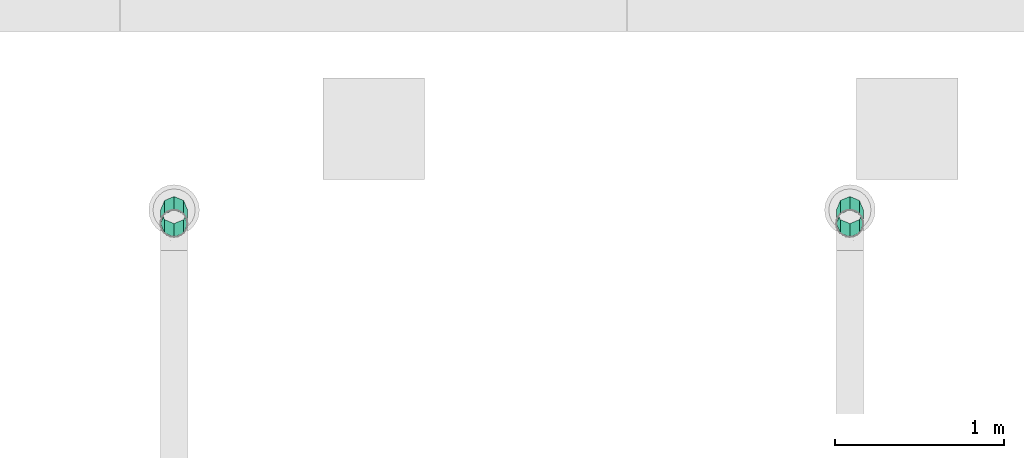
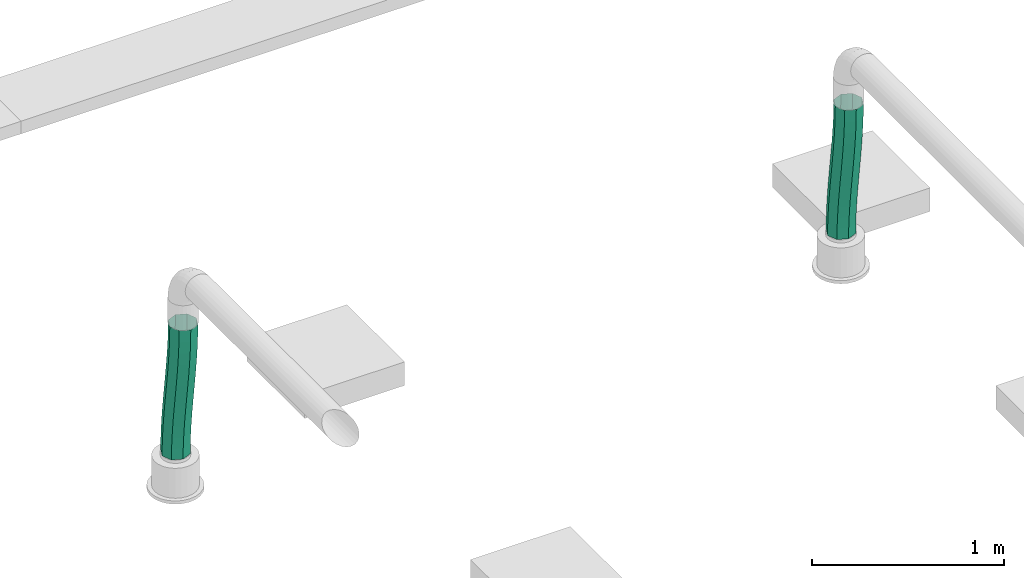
# One storey, part 241 of 374: 2 flow segments.
"""IFC2X3 building model written with IfcOpenShell, lengths in metres."""

from ifc_helpers import new_model, si_unit, direction, origin, place, context, subcontext, project, spatial, open_shell, surface_model, source, transform, mapped, element, save


model = new_model("IFC2X3")

# Units and contexts
model_context = context("Model", 3, precision=1e-05, world=origin(), true_north=direction((-0.4480736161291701, 0.8939966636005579)))
body_context = subcontext(model_context, "Body", "Model", "MODEL_VIEW")
ifc_project = project(units=[si_unit("LENGTHUNIT", "METRE"), si_unit("AREAUNIT", "SQUARE_METRE"), si_unit("VOLUMEUNIT", "CUBIC_METRE"), si_unit("PLANEANGLEUNIT", "RADIAN"), si_unit("THERMODYNAMICTEMPERATUREUNIT", "KELVIN"), si_unit("MASSUNIT", "GRAM", prefix="KILO"), si_unit("TIMEUNIT", "SECOND")], contexts=[model_context])

# Site, building, storey
site_placement = place(None, origin())
site = spatial("IfcSite", under=ifc_project, at=site_placement, Name="Site 1", CompositionType="ELEMENT")
building_placement = place(site_placement, origin())
building = spatial("IfcBuilding", under=site, at=building_placement, Name="Undefined", CompositionType="ELEMENT")
storey_placement = place(building_placement, origin())
storey = spatial("IfcBuildingStorey", under=building, at=storey_placement, Name="Rez de chauss\x8ee", CompositionType="ELEMENT", Elevation=0.0)

# Flow segments
shared_shape_1 = source(origin(), body_context, "Body", "SurfaceModel", [
    surface_model("IfcFaceBasedSurfaceModel", [(0.09425707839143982, 0.0, -1.776356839e-15), (0.05356602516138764, 0.045752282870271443, 0.0), (0.0, 0.0, 0.0), (0.038940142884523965, -0.0472514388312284, -1.150793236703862e-06), (-0.05541274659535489, -0.044041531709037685, 0.001035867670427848), (-0.017993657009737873, -0.09250640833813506, 0.0010617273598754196), (-0.11243304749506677, -0.08679100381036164, 0.0029113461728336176), (-0.07622094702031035, -0.13616420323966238, 0.002975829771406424), (-0.1707571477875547, -0.12862219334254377, 0.005426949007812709), (-0.1354183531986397, -0.17862411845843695, 0.00552835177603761), (-0.23007333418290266, -0.16991459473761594, 0.008379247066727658), (-0.19526250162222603, -0.22028544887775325, 0.008506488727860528), (-0.2900642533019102, -0.21105507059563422, 0.011560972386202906), (-0.25543001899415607, -0.26154748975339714, 0.01169743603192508), (-0.35040837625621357, -0.25243868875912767, 0.014761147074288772), (-0.3155975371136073, -0.30280953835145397, 0.014888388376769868), (-0.41078048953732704, -0.2944689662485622, 0.01776513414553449), (-0.3754416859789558, -0.3444708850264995, 0.017866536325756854), (-0.4708512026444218, -0.3375576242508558, 0.02035458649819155), (-0.4346390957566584, -0.38693081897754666, 0.02041906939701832), (-0.5302854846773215, -0.38212375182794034, 0.022307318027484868), (-0.4928663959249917, -0.4305886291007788, 0.022333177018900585), (-0.5887403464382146, -0.42859215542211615, 0.02339719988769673), (-0.5498002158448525, -0.47584360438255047, 0.023396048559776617), (-0.645808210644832, -0.47734272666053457, 0.02339487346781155), (-0.6051171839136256, -0.5230950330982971, 0.023394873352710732), (0.025061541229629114, 0.07834277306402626, -0.04329419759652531), (-0.027779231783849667, 0.03321146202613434, -0.04329372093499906), (-0.08256193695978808, -0.010327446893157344, -0.04226904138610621), (-0.1390822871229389, -0.052700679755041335, -0.04040956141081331), (-0.19704465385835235, -0.09427144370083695, -0.037909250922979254), (-0.2561421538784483, -0.1354110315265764, -0.03496765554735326), (-0.3160599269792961, -0.17650115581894, -0.03178974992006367), (-0.37647720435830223, -0.21793513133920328, -0.028585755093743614), (-0.4370680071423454, -0.2601182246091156, -0.025571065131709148), (-0.4975004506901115, -0.3034673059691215, -0.022966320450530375), (-0.5574346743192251, -0.348409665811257, -0.02099759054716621), (-0.616519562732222, -0.3953806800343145, -0.019896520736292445), (-0.6743126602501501, -0.44475220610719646, -0.019899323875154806), (0.025441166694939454, 0.07868040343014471, -0.10452143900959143), (-0.028124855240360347, 0.03292812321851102, -0.10452143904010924), (-0.08353760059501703, -0.011113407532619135, -0.10348557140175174), (-0.14055790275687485, -0.053862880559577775, -0.10161009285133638), (-0.19888200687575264, -0.09569407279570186, -0.09909448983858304), (-0.2581981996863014, -0.13698647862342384, -0.09614219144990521), (-0.31818912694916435, -0.17812696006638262, -0.09296046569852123), (-0.378533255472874, -0.2195105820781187, -0.08976029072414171), (-0.43890536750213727, -0.26154085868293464, -0.08675630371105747), (-0.4989760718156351, -0.3046295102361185, -0.08416685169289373), (-0.5584103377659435, -0.34919562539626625, -0.08221412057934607), (-0.6168651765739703, -0.3956640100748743, -0.08112423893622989), (-0.6739330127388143, -0.4444145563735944, -0.08112656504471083), (0.05448252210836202, 0.046567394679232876, -0.14781563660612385), (-0.0008344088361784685, -0.0006840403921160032, -0.1478167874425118), (-0.05776820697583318, -0.04593900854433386, -0.1467539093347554), (-0.1159954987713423, -0.08959680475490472, -0.1448398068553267), (-0.1751929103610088, -0.13205672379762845, -0.14228728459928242), (-0.23503706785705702, -0.1737180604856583, -0.13930914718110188), (-0.29520459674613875, -0.21498010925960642, -0.13611819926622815), (-0.35537212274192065, -0.2562421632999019, -0.13292724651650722), (-0.4152162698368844, -0.29790350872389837, -0.12994909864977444), (-0.47441366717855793, -0.3403634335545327, -0.12739656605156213), (-0.5326409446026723, -0.38402122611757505, -0.12548245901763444), (-0.5895747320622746, -0.4292761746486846, -0.12441958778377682), (-0.6448916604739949, -0.4765275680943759, -0.12442076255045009), (0.0951735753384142, 0.0008151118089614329, -0.14781563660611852), (0.03810573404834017, -0.04793547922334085, -0.14781793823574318), (-0.020349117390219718, -0.09440388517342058, -0.14672804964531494), (-0.07978339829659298, -0.1389700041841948, -0.14477532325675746), (-0.13985411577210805, -0.18205864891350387, -0.14218588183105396), (-0.20022623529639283, -0.2240889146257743, -0.139181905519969), (-0.26057036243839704, -0.26547252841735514, -0.13598173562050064), (-0.32056128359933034, -0.306613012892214, -0.13280000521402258), (-0.37987746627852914, -0.3479054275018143, -0.12984769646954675), (-0.4382015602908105, -0.38973662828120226, -0.1273320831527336), (-0.49522185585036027, -0.43248610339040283, -0.12545660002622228), (-0.5506346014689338, -0.47652762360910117, -0.12442073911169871), (-0.604200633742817, -0.5222798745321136, -0.12442076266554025), (0.12367805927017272, -0.031775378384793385, -0.10452143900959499), (0.06588496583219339, -0.0811469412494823, -0.10452421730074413), (0.006800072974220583, -0.12811796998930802, -0.10342314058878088), (-0.053134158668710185, -0.17306032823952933, -0.10145441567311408), (-0.11356660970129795, -0.21640939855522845, -0.09884968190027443), (-0.1741574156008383, -0.2585924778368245, -0.09583500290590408), (-0.23457468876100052, -0.30002644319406, -0.09263101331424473), (-0.2944924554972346, -0.3411165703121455, -0.08945310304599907), (-0.353589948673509, -0.3822561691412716, -0.08651149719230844), (-0.4115523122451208, -0.42382694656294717, -0.08401117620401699), (-0.468072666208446, -0.4662001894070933, -0.08215169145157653), (-0.5228553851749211, -0.5097390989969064, -0.08112701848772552), (-0.5756961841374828, -0.5548703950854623, -0.08112656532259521), (0.12329843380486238, -0.032113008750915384, -0.043294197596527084), (0.06623058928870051, -0.08086360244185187, -0.043296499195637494), (0.0077757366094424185, -0.12733200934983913, -0.042206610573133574), (-0.05165854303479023, -0.17189812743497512, -0.04025388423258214), (-0.11172925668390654, -0.21498676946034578, -0.037664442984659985), (-0.1721013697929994, -0.2570170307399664, -0.03466046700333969), (-0.23244548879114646, -0.2984006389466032, -0.03146029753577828), (-0.2924364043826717, -0.3395411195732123, -0.028278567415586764), (-0.3517525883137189, -0.38083353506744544, -0.025326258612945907), (-0.41007669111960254, -0.422664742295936, -0.022810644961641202), (-0.4670970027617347, -0.46541422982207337, -0.020935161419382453), (-0.5225097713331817, -0.509455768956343, -0.01989930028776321), (-0.5760758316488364, -0.5552080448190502, -0.019899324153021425)], [open_shell([[[0, 1, 2]], [[2, 3, 0]], [[3, 2, 4]], [[4, 5, 3]], [[5, 4, 6]], [[6, 7, 5]], [[7, 6, 8]], [[8, 9, 7]], [[9, 8, 10]], [[10, 11, 9]], [[11, 10, 12]], [[12, 13, 11]], [[13, 12, 14]], [[14, 15, 13]], [[15, 14, 16]], [[16, 17, 15]], [[17, 16, 18]], [[18, 19, 17]], [[19, 18, 20]], [[20, 21, 19]], [[21, 20, 22]], [[22, 23, 21]], [[23, 22, 24]], [[24, 25, 23]], [[1, 26, 27]], [[27, 2, 1]], [[2, 27, 28]], [[28, 4, 2]], [[4, 28, 29]], [[29, 6, 4]], [[6, 29, 30]], [[30, 8, 6]], [[8, 30, 31]], [[31, 10, 8]], [[10, 31, 32]], [[32, 12, 10]], [[12, 32, 33]], [[33, 14, 12]], [[14, 33, 34]], [[34, 16, 14]], [[16, 34, 35]], [[35, 18, 16]], [[18, 35, 36]], [[36, 20, 18]], [[20, 36, 37]], [[37, 22, 20]], [[22, 37, 38]], [[38, 24, 22]], [[26, 39, 40]], [[40, 27, 26]], [[27, 40, 41]], [[41, 28, 27]], [[28, 41, 42]], [[42, 29, 28]], [[29, 42, 43]], [[43, 30, 29]], [[30, 43, 44]], [[44, 31, 30]], [[31, 44, 45]], [[45, 32, 31]], [[32, 45, 46]], [[46, 33, 32]], [[33, 46, 47]], [[47, 34, 33]], [[34, 47, 48]], [[48, 35, 34]], [[35, 48, 49]], [[49, 36, 35]], [[36, 49, 50]], [[50, 37, 36]], [[37, 50, 51]], [[51, 38, 37]], [[39, 52, 53]], [[53, 40, 39]], [[40, 53, 54]], [[54, 41, 40]], [[41, 54, 55]], [[55, 42, 41]], [[42, 55, 56]], [[56, 43, 42]], [[43, 56, 57]], [[57, 44, 43]], [[44, 57, 58]], [[58, 45, 44]], [[45, 58, 59]], [[59, 46, 45]], [[46, 59, 60]], [[60, 47, 46]], [[47, 60, 61]], [[61, 48, 47]], [[48, 61, 62]], [[62, 49, 48]], [[49, 62, 63]], [[63, 50, 49]], [[50, 63, 64]], [[64, 51, 50]], [[52, 65, 66]], [[66, 53, 52]], [[53, 66, 67]], [[67, 54, 53]], [[54, 67, 68]], [[68, 55, 54]], [[55, 68, 69]], [[69, 56, 55]], [[56, 69, 70]], [[70, 57, 56]], [[57, 70, 71]], [[71, 58, 57]], [[58, 71, 72]], [[72, 59, 58]], [[59, 72, 73]], [[73, 60, 59]], [[60, 73, 74]], [[74, 61, 60]], [[61, 74, 75]], [[75, 62, 61]], [[62, 75, 76]], [[76, 63, 62]], [[63, 76, 77]], [[77, 64, 63]], [[65, 78, 79]], [[79, 66, 65]], [[66, 79, 80]], [[80, 67, 66]], [[67, 80, 81]], [[81, 68, 67]], [[68, 81, 82]], [[82, 69, 68]], [[69, 82, 83]], [[83, 70, 69]], [[70, 83, 84]], [[84, 71, 70]], [[71, 84, 85]], [[85, 72, 71]], [[72, 85, 86]], [[86, 73, 72]], [[73, 86, 87]], [[87, 74, 73]], [[74, 87, 88]], [[88, 75, 74]], [[75, 88, 89]], [[89, 76, 75]], [[76, 89, 90]], [[90, 77, 76]], [[78, 91, 92]], [[92, 79, 78]], [[79, 92, 93]], [[93, 80, 79]], [[80, 93, 94]], [[94, 81, 80]], [[81, 94, 95]], [[95, 82, 81]], [[82, 95, 96]], [[96, 83, 82]], [[83, 96, 97]], [[97, 84, 83]], [[84, 97, 98]], [[98, 85, 84]], [[85, 98, 99]], [[99, 86, 85]], [[86, 99, 100]], [[100, 87, 86]], [[87, 100, 101]], [[101, 88, 87]], [[88, 101, 102]], [[102, 89, 88]], [[89, 102, 103]], [[103, 90, 89]], [[91, 0, 3]], [[3, 92, 91]], [[92, 3, 5]], [[5, 93, 92]], [[93, 5, 7]], [[7, 94, 93]], [[94, 7, 9]], [[9, 95, 94]], [[95, 9, 11]], [[11, 96, 95]], [[96, 11, 13]], [[13, 97, 96]], [[97, 13, 15]], [[15, 98, 97]], [[98, 15, 17]], [[17, 99, 98]], [[99, 17, 19]], [[19, 100, 99]], [[100, 19, 21]], [[21, 101, 100]], [[101, 21, 23]], [[23, 102, 101]], [[102, 23, 25]], [[25, 103, 102]]])]),
])
flow_segment_1_placement = place(storey_placement, origin())
element("IfcFlowSegment", 1, at=flow_segment_1_placement, inside=storey, Name="Tube flexible", ObjectType="Tube flexible", context=body_context, shape_type="MappedRepresentation", body=[
    mapped(shared_shape_1, transform((22.923485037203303, 16.933392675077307, 3.4095708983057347), x_axis=(-0.2485909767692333, -0.6163532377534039, 0.7472022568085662), y_axis=(0.29104621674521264, 0.6882384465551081, 0.6645449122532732), z_axis=(-0.9238477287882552, 0.3826702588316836, 0.00829741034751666))),
])
shared_shape_2 = source(origin(), body_context, "Body", "SurfaceModel", [
    surface_model("IfcFaceBasedSurfaceModel", [(0.09425707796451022, 0.0, -1.776356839e-15), (0.053566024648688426, 0.045752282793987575, 0.0), (0.0, 0.0, 0.0), (0.03894014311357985, -0.04725143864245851, -1.1508051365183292e-06), (-0.05541274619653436, -0.044041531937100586, 0.0010358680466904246), (-0.017993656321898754, -0.0925064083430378, 0.0010617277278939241), (-0.11243304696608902, -0.08679100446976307, 0.002911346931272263), (-0.07622094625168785, -0.13616420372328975, 0.002975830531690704), (-0.17075714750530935, -0.1286221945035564, 0.005426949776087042), (-0.13541835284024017, -0.17862411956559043, 0.005528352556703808), (-0.23007333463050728, -0.16991459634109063, 0.00837924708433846), (-0.1952625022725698, -0.22028545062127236, 0.008506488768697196), (-0.2900642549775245, -0.21105507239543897, 0.011560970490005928), (-0.2554300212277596, -0.26154749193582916, 0.011697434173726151), (-0.35040837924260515, -0.2524386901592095, 0.014761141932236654), (-0.315597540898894, -0.30280954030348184, 0.014888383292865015), (-0.4107804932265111, -0.2944689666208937, 0.017765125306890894), (-0.375441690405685, -0.34447088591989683, 0.01786652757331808), (-0.4708512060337, -0.33755762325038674, 0.020354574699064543), (-0.4346390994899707, -0.3869308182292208, 0.020419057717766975), (-0.5302854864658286, -0.38212374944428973, 0.022307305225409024), (-0.49286639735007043, -0.430588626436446, 0.02233316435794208), (-0.5887403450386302, -0.4285921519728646, 0.023397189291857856), (-0.5498002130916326, -0.4758435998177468, 0.02339603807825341), (-0.6458082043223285, -0.47734272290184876, 0.023394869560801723), (-0.6051171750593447, -0.5230950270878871, 0.023394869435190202), (0.025061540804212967, 0.07834277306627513, -0.04329419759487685), (-0.027779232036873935, 0.033211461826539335, -0.04329372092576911), (-0.08256193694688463, -0.010327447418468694, -0.04226904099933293), (-0.13908228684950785, -0.05270068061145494, -0.04040956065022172), (-0.1970446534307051, -0.09427144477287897, -0.037909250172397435), (-0.2561421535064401, -0.13541103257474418, -0.034967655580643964), (-0.31605992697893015, -0.17650115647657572, -0.0317897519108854), (-0.37647720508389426, -0.21793513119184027, -0.02858576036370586), (-0.43706800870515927, -0.2601182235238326, -0.025571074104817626), (-0.49750045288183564, -0.303467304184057, -0.0229663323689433), (-0.5574346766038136, -0.3484096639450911, -0.020997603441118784), (-0.6165195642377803, -0.39538067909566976, -0.019896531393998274), (-0.6743126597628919, -0.44475220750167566, -0.01989932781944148), (0.025441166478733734, 0.07868040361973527, -0.10452143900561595), (-0.028124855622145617, 0.03292812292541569, -0.10452143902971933), (-0.08353760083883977, -0.011113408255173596, -0.10348557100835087), (-0.14055790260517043, -0.05386288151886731, -0.1016100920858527), (-0.19888200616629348, -0.0956940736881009, -0.09909448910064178), (-0.2581981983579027, -0.13698647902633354, -0.09614219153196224), (-0.3181891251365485, -0.17812695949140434, -0.09296046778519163), (-0.37853325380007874, -0.21951058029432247, -0.08976029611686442), (-0.43890536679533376, -0.2615408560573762, -0.08675631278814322), (-0.49897607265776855, -0.3046295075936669, -0.0841668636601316), (-0.5584103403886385, -0.34919562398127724, -0.08221413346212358), (-0.6168651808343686, -0.3956640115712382, -0.08112424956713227), (-0.673933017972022, -0.44441456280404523, -0.08112656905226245), (0.054482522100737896, 0.04656739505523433, -0.14781563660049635), (-0.000834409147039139, -0.0006840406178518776, -0.1478167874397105), (-0.05776820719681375, -0.045939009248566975, -0.1467539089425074), (-0.11599549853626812, -0.08959680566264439, -0.14483980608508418), (-0.1751929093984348, -0.13205672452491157, -0.14228728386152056), (-0.23503706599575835, -0.17371806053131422, -0.1393091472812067), (-0.29520459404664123, -0.21498010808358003, -0.1361182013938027), (-0.35537211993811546, -0.25624216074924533, -0.13292725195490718), (-0.4152162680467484, -0.29790350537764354, -0.12994910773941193), (-0.4744136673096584, -0.34036343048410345, -0.12739657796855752), (-0.5326409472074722, -0.3840212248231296, -0.12548247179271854), (-0.5895747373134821, -0.4292761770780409, -0.12441959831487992), (-0.6448916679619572, -0.4765275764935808, -0.1244207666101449), (0.09517357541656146, 0.0008151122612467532, -0.1478156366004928), (0.038105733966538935, -0.04793547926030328, -0.14781793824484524), (-0.020349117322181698, -0.0944038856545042, -0.1467280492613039), (-0.07978339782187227, -0.1389700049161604, -0.14477532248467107), (-0.1398541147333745, -0.18205864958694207, -0.14218588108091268), (-0.200226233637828, -0.22408891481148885, -0.13918190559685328), (-0.2605703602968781, -0.26547252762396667, -0.1359817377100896), (-0.3205612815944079, -0.3066130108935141, -0.13280001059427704), (-0.37987746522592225, -0.34790542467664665, -0.12984770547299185), (-0.43820156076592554, -0.3897366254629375, -0.1273320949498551), (-0.49522185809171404, -0.4324861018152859, -0.1254566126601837), (-0.5506346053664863, -0.4765276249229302, -0.12442074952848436), (-0.6042006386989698, -0.5222798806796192, -0.12442076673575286), (0.12367805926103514, -0.03177537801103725, -0.10452143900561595), (0.06588496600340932, -0.08114694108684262, -0.10452421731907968), (0.006800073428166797, -0.12811797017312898, -0.10342314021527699), (-0.05313415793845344, -0.17306032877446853, -0.10145441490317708), (-0.1135666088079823, -0.21640939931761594, -0.09884968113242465), (-0.17415741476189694, -0.2585924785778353, -0.09583500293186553), (-0.23457468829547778, -0.30002644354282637, -0.09263101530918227), (-0.294492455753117, -0.34111656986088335, -0.08945310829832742), (-0.3535899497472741, -0.3822561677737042, -0.08651150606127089), (-0.4115523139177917, -0.4238269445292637, -0.08401118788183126), (-0.4680726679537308, -0.466200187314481, -0.08215170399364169), (-0.5228553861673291, -0.509739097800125, -0.08112702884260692), (-0.5756961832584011, -0.5548703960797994, -0.08112656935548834), (0.12329843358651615, -0.032113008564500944, -0.04329419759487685), (0.06623058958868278, -0.08086360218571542, -0.04329649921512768), (0.00777573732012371, -0.12733200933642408, -0.042206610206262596), (-0.051658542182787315, -0.17189812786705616, -0.04025388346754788), (-0.1117292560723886, -0.214986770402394, -0.03766444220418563), (-0.17210136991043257, -0.25701703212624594, -0.034660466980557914), (-0.2324454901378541, -0.2984006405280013, -0.03146029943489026), (-0.2924364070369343, -0.33954112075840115, -0.028278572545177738), (-0.3517525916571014, -0.3808335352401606, -0.025326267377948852), (-0.4100766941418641, -0.42266474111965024, -0.022810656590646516), (-0.46709700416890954, -0.46541422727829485, -0.020935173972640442), (-0.522509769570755, -0.509455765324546, -0.019899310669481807), (-0.5760758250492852, -0.5552080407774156, -0.01989932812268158)], [open_shell([[[0, 1, 2]], [[2, 3, 0]], [[3, 2, 4]], [[4, 5, 3]], [[5, 4, 6]], [[6, 7, 5]], [[7, 6, 8]], [[8, 9, 7]], [[9, 8, 10]], [[10, 11, 9]], [[11, 10, 12]], [[12, 13, 11]], [[13, 12, 14]], [[14, 15, 13]], [[15, 14, 16]], [[16, 17, 15]], [[17, 16, 18]], [[18, 19, 17]], [[19, 18, 20]], [[20, 21, 19]], [[21, 20, 22]], [[22, 23, 21]], [[23, 22, 24]], [[24, 25, 23]], [[1, 26, 27]], [[27, 2, 1]], [[2, 27, 28]], [[28, 4, 2]], [[4, 28, 29]], [[29, 6, 4]], [[6, 29, 30]], [[30, 8, 6]], [[8, 30, 31]], [[31, 10, 8]], [[10, 31, 32]], [[32, 12, 10]], [[12, 32, 33]], [[33, 14, 12]], [[14, 33, 34]], [[34, 16, 14]], [[16, 34, 35]], [[35, 18, 16]], [[18, 35, 36]], [[36, 20, 18]], [[20, 36, 37]], [[37, 22, 20]], [[22, 37, 38]], [[38, 24, 22]], [[26, 39, 40]], [[40, 27, 26]], [[27, 40, 41]], [[41, 28, 27]], [[28, 41, 42]], [[42, 29, 28]], [[29, 42, 43]], [[43, 30, 29]], [[30, 43, 44]], [[44, 31, 30]], [[31, 44, 45]], [[45, 32, 31]], [[32, 45, 46]], [[46, 33, 32]], [[33, 46, 47]], [[47, 34, 33]], [[34, 47, 48]], [[48, 35, 34]], [[35, 48, 49]], [[49, 36, 35]], [[36, 49, 50]], [[50, 37, 36]], [[37, 50, 51]], [[51, 38, 37]], [[39, 52, 53]], [[53, 40, 39]], [[40, 53, 54]], [[54, 41, 40]], [[41, 54, 55]], [[55, 42, 41]], [[42, 55, 56]], [[56, 43, 42]], [[43, 56, 57]], [[57, 44, 43]], [[44, 57, 58]], [[58, 45, 44]], [[45, 58, 59]], [[59, 46, 45]], [[46, 59, 60]], [[60, 47, 46]], [[47, 60, 61]], [[61, 48, 47]], [[48, 61, 62]], [[62, 49, 48]], [[49, 62, 63]], [[63, 50, 49]], [[50, 63, 64]], [[64, 51, 50]], [[52, 65, 66]], [[66, 53, 52]], [[53, 66, 67]], [[67, 54, 53]], [[54, 67, 68]], [[68, 55, 54]], [[55, 68, 69]], [[69, 56, 55]], [[56, 69, 70]], [[70, 57, 56]], [[57, 70, 71]], [[71, 58, 57]], [[58, 71, 72]], [[72, 59, 58]], [[59, 72, 73]], [[73, 60, 59]], [[60, 73, 74]], [[74, 61, 60]], [[61, 74, 75]], [[75, 62, 61]], [[62, 75, 76]], [[76, 63, 62]], [[63, 76, 77]], [[77, 64, 63]], [[65, 78, 79]], [[79, 66, 65]], [[66, 79, 80]], [[80, 67, 66]], [[67, 80, 81]], [[81, 68, 67]], [[68, 81, 82]], [[82, 69, 68]], [[69, 82, 83]], [[83, 70, 69]], [[70, 83, 84]], [[84, 71, 70]], [[71, 84, 85]], [[85, 72, 71]], [[72, 85, 86]], [[86, 73, 72]], [[73, 86, 87]], [[87, 74, 73]], [[74, 87, 88]], [[88, 75, 74]], [[75, 88, 89]], [[89, 76, 75]], [[76, 89, 90]], [[90, 77, 76]], [[78, 91, 92]], [[92, 79, 78]], [[79, 92, 93]], [[93, 80, 79]], [[80, 93, 94]], [[94, 81, 80]], [[81, 94, 95]], [[95, 82, 81]], [[82, 95, 96]], [[96, 83, 82]], [[83, 96, 97]], [[97, 84, 83]], [[84, 97, 98]], [[98, 85, 84]], [[85, 98, 99]], [[99, 86, 85]], [[86, 99, 100]], [[100, 87, 86]], [[87, 100, 101]], [[101, 88, 87]], [[88, 101, 102]], [[102, 89, 88]], [[89, 102, 103]], [[103, 90, 89]], [[91, 0, 3]], [[3, 92, 91]], [[92, 3, 5]], [[5, 93, 92]], [[93, 5, 7]], [[7, 94, 93]], [[94, 7, 9]], [[9, 95, 94]], [[95, 9, 11]], [[11, 96, 95]], [[96, 11, 13]], [[13, 97, 96]], [[97, 13, 15]], [[15, 98, 97]], [[98, 15, 17]], [[17, 99, 98]], [[99, 17, 19]], [[19, 100, 99]], [[100, 19, 21]], [[21, 101, 100]], [[101, 21, 23]], [[23, 102, 101]], [[102, 23, 25]], [[25, 103, 102]]])]),
])
flow_segment_2_placement = place(storey_placement, origin())
element("IfcFlowSegment", 2, at=flow_segment_2_placement, inside=storey, Name="Tube flexible", ObjectType="Tube flexible", context=body_context, shape_type="MappedRepresentation", body=[
    mapped(shared_shape_2, transform((18.92348494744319, 16.9333926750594, 3.4095708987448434), x_axis=(-0.2485909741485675, -0.6163532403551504, 0.7472022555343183), y_axis=(0.2910462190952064, 0.6882384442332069, 0.6645449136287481), z_axis=(-0.9238477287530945, 0.38267025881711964, 0.008297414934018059))),
])

save(model, "model.ifc")
